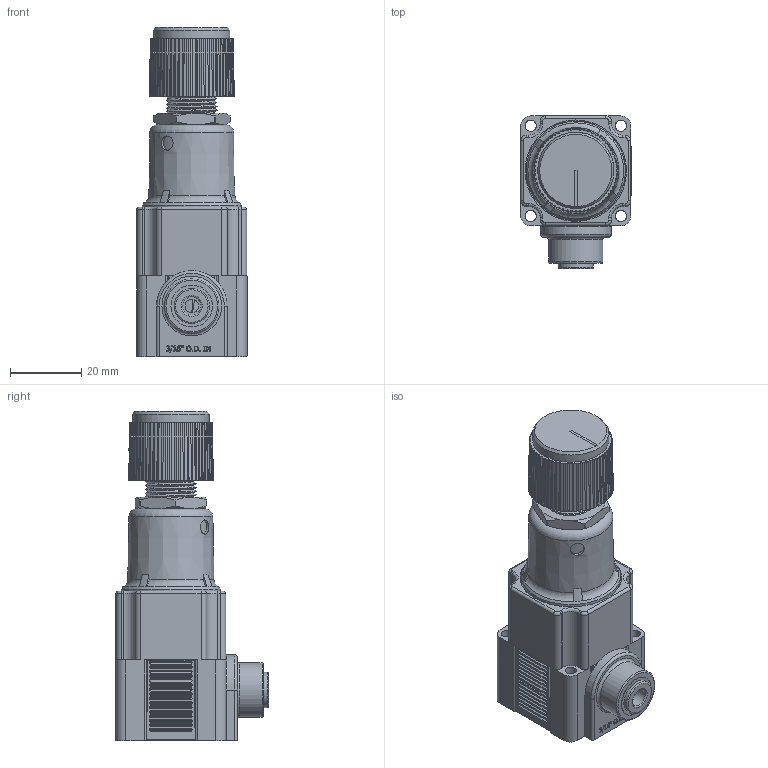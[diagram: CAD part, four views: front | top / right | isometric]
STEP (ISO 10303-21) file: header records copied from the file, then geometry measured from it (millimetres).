
FILE_DESCRIPTION(/* description */ (''),/* implementation_level */ '2;1');
FILE_NAME(/* name */ 'K:\Normteile INVENTOR\Air-Logic\Regulators\NR4000\NR 4___ 4 Push-In Fittings for 3''16 O.D. Tube In.igs.ipt.stp',/* time_stamp */ '2020-05-27T10:50:51+02:00',/* author */ ('Paul'),/* organization */ (''),/* preprocessor_version */ 'ST-DEVELOPER v18',/* originating_system */ 'Autodesk Inventor 2020',/* authorisation */ '');
FILE_SCHEMA (('AUTOMOTIVE_DESIGN { 1 0 10303 214 3 1 1 }'));
Length unit declared in the file: inch
Products named in the file (1): NR 4___ 4 Push-In Fittings for 3'16 O.D. Tube In.igs
Bounding box: 31.06 x 43.08 x 92.65 mm (x, y, z)
Volume: 57367.2 mm3; surface area: 19206 mm2
Topology: 1 solids, 1 shells, 1050 faces, 2709 edges, 1738 vertices
Faces by surface type: plane 525, cylinder 333, bspline 84, cone 82, torus 26
Full cylindrical faces by diameter (mm): 3.175 x4, 3.785 x1, 3.988 x1, 4.039 x1, 4.064 x1, 5.207 x1, 6.045 x1, 9.169 x1, 9.398 x1, 9.906 x1, 11.735 x1, 12.903 x1, 14.288 x2, 15.291 x1, 19.406 x1, 21.476 x1, 26.264 x1, 27.94 x1, 28.575 x1
Entity records: 41286 total; most frequent: CARTESIAN_POINT 14407, ORIENTED_EDGE 5418, DIRECTION 5397, EDGE_CURVE 2709, AXIS2_PLACEMENT_3D 2008, VERTEX_POINT 1738, LINE 1381, VECTOR 1381
